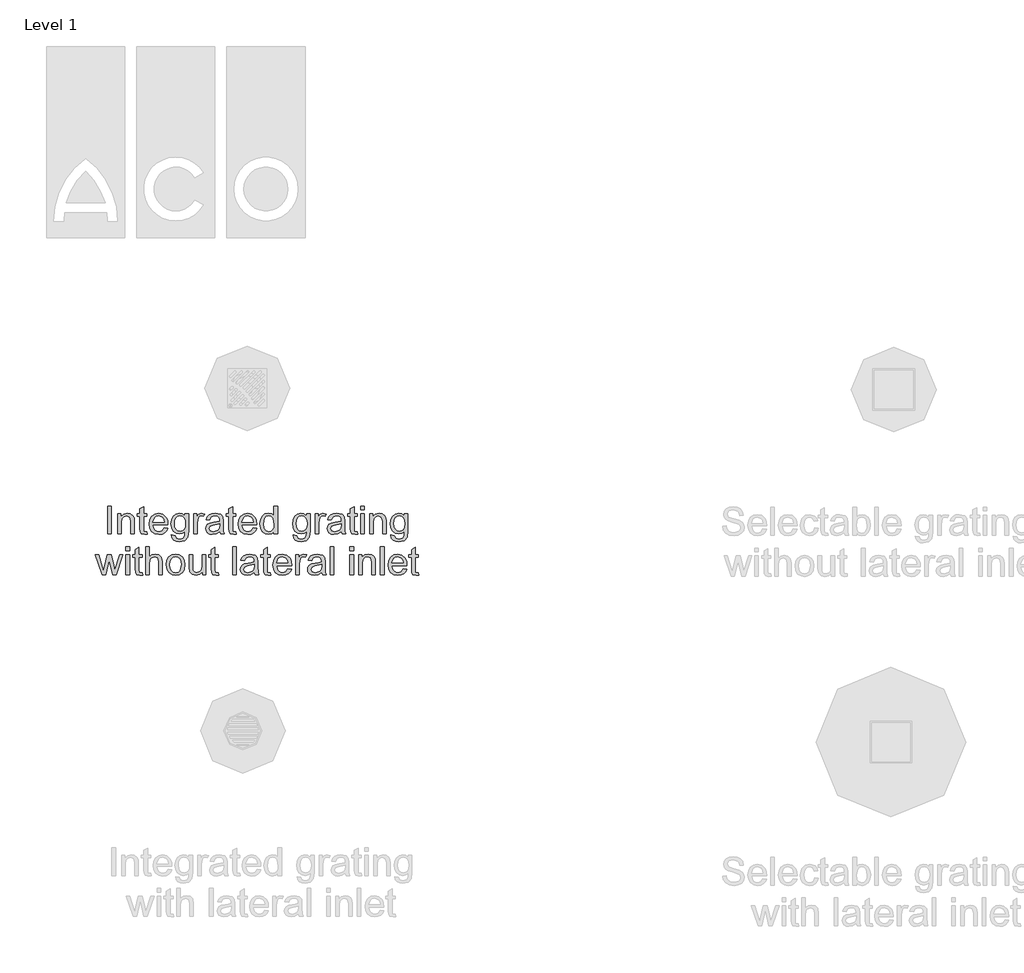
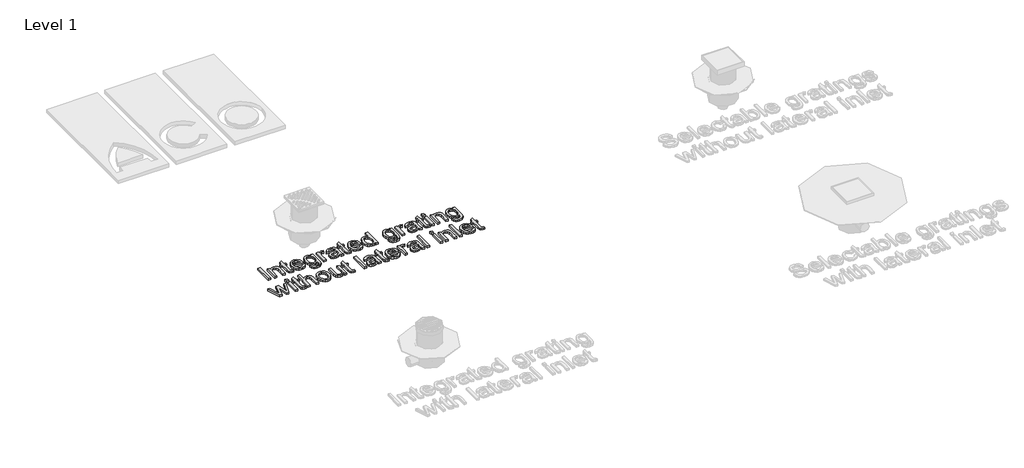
# One storey, part 2 of 4: 1 proxy.
"""IFC4 building model written with IfcOpenShell, lengths in millimetres."""

import ifcopenshell
import ifcopenshell.guid

model = None  # the IFC model being written
_history = None  # IfcOwnerHistory: only IFC2X3 demands one
_inside = {}  # id of a spatial element -> (the spatial element, [elements in it])
_under = {}  # id of a project, library or spatial element -> (it, [spatial elements below it])
_declared = {}  # id of a project -> (the project, [libraries it declares])
_typed = {}  # id of a type object -> (the type object, [elements of that type])
_made_of = {}  # id of a material, layer set ... -> (it, [elements and type objects made of it])


def new_model(schema):
    """Start an empty IFC model of exactly this schema.

    Asked for "IFC4X3", IfcOpenShell would pick the latest addendum, in which some entities
    have other attributes; the version numbers below select the first issue.
    IFC2X3 requires an IfcOwnerHistory on every rooted entity: one is made here for all.
    """
    global model, _history
    if schema == "IFC4X3":
        model = ifcopenshell.file(schema_version=(4, 3, 0, 0))
    else:
        model = ifcopenshell.file(schema=schema)
    _inside.clear()
    _under.clear()
    _declared.clear()
    _typed.clear()
    _made_of.clear()
    _history = None
    if model.schema == "IFC2X3":
        org = make("IfcOrganization", Name="unknown")
        user = make(
            "IfcPersonAndOrganization",
            ThePerson=make("IfcPerson", FamilyName="unknown"),
            TheOrganization=org,
        )
        app = make(
            "IfcApplication",
            ApplicationDeveloper=org,
            Version="unknown",
            ApplicationFullName="unknown",
            ApplicationIdentifier="unknown",
        )
        _history = make(
            "IfcOwnerHistory",
            OwningUser=user,
            OwningApplication=app,
            ChangeAction="ADDED",
            CreationDate=0,
        )
    return model


def make(cls, **values):
    """One entity of the class cls with the attributes given. An attribute that is None is left unset."""
    return model.create_entity(
        cls, **{name: value for name, value in values.items() if value is not None}
    )


def rooted(cls, **values):
    """An entity with a GlobalId (a new one), such as an element, a storey or a relation."""
    return make(cls, GlobalId=ifcopenshell.guid.new(), OwnerHistory=_history, **values)


def si_unit(unit_type, name, prefix=None):
    """IfcSIUnit, for example si_unit("LENGTHUNIT", "METRE", prefix="MILLI")."""
    return make("IfcSIUnit", UnitType=unit_type, Prefix=prefix, Name=name)


def assignment(units):
    """IfcUnitAssignment: the units of a project."""
    return None if units is None else make("IfcUnitAssignment", Units=units)


def point(xyz):
    """IfcCartesianPoint."""
    return None if xyz is None else make("IfcCartesianPoint", Coordinates=xyz)


def direction(xyz):
    """IfcDirection."""
    return None if xyz is None else make("IfcDirection", DirectionRatios=xyz)


def frame(location, z_axis=None, x_axis=None):
    """IfcAxis2Placement3D, a coordinate frame: its origin and axes. An axis left out is left unset."""
    return make(
        "IfcAxis2Placement3D",
        Location=point(location),
        Axis=direction(z_axis),
        RefDirection=direction(x_axis),
    )


def origin():
    """The frame at (0, 0, 0) with its axes left unset."""
    return frame((0.0, 0.0, 0.0))


def origin_with_axes():
    """The frame at (0, 0, 0) with the z axis (0, 0, 1) and the x axis (1, 0, 0) written out."""
    return frame((0.0, 0.0, 0.0), z_axis=(0.0, 0.0, 1.0), x_axis=(1.0, 0.0, 0.0))


def place(relative_to, where):
    """IfcLocalPlacement: puts the frame where relative to a parent placement (None: the world)."""
    return make(
        "IfcLocalPlacement", PlacementRelTo=relative_to, RelativePlacement=where
    )


def context(
    kind, dimensions, precision=None, world=None, true_north=None, identifier=None
):
    """IfcGeometricRepresentationContext, for example the 3D "Model" context."""
    return make(
        "IfcGeometricRepresentationContext",
        ContextIdentifier=identifier,
        ContextType=kind,
        CoordinateSpaceDimension=dimensions,
        Precision=precision,
        WorldCoordinateSystem=world,
        TrueNorth=true_north,
    )


def project(units=None, contexts=None):
    """IfcProject with its units and contexts."""
    return rooted(
        "IfcProject",
        Name="project",
        RepresentationContexts=contexts,
        UnitsInContext=assignment(units),
    )


def spatial(cls, under=None, at=None, **own):
    """A site, building, storey or space (cls), placed at a placement, below another one or the project."""
    s = rooted(cls, ObjectPlacement=at, **own)
    if under is not None:
        _under.setdefault(under.id(), (under, []))[1].append(s)
    return s


def polyline(points):
    """IfcPolyline through the points."""
    return make("IfcPolyline", Points=[point(p) for p in points])


def outline(outer, holes=None, kind="AREA"):
    """IfcArbitraryClosedProfileDef: a profile drawn as a closed curve; with holes, ...WithVoids."""
    if holes is None:
        return make("IfcArbitraryClosedProfileDef", ProfileType=kind, OuterCurve=outer)
    return make(
        "IfcArbitraryProfileDefWithVoids",
        ProfileType=kind,
        OuterCurve=outer,
        InnerCurves=holes,
    )


def extrude(swept, where, along, depth):
    """IfcExtrudedAreaSolid: the profile swept, set in the frame where, extruded along a direction by depth."""
    return make(
        "IfcExtrudedAreaSolid",
        SweptArea=swept,
        Position=where,
        ExtrudedDirection=direction(along),
        Depth=depth,
    )


def shape(context_of_items, identifier, shape_type, items):
    """IfcShapeRepresentation: the items that make up one representation, for example the "Body"."""
    return make(
        "IfcShapeRepresentation",
        ContextOfItems=context_of_items,
        RepresentationIdentifier=identifier,
        RepresentationType=shape_type,
        Items=items,
    )


def made_of(thing, what):
    """Note that an element or type object is made of a material, layer set ...; save() writes the relation."""
    if what is not None:
        _made_of.setdefault(what.id(), (what, []))[1].append(thing)
    return thing


def element(
    cls,
    number,
    at=None,
    inside=None,
    cuts=None,
    type_object=None,
    material=None,
    context=None,
    identifier="Body",
    shape_type=None,
    held_by="IfcProductDefinitionShape",
    body=None,
    shapes=None,
    **own,
):
    """One element of the class cls, such as IfcWall. Its Tag is "e" and its number.

    at: its placement. inside: the storey or other place that contains it. cuts: it is an
    opening in that element (IfcRelVoidsElement). A single representation is given by context,
    identifier, shape_type and body (its items); several are given by shapes. held_by: the class
    of the entity that holds the representations. save() writes the other relations.
    """
    e = rooted(cls, Tag="e%d" % number, ObjectPlacement=at, **own)
    if body is not None:
        shapes = [shape(context, identifier, shape_type, body)]
    if shapes is not None:
        e.Representation = make(held_by, Representations=shapes)
    if inside is not None:
        _inside.setdefault(inside.id(), (inside, []))[1].append(e)
    if cuts is not None:
        rooted(
            "IfcRelVoidsElement", RelatingBuildingElement=cuts, RelatedOpeningElement=e
        )
    if type_object is not None:
        _typed.setdefault(type_object.id(), (type_object, []))[1].append(e)
    return made_of(e, material)


def aggregate(whole, parts):
    """IfcRelAggregates: a whole, such as a stair, and the parts it consists of."""
    return rooted("IfcRelAggregates", RelatingObject=whole, RelatedObjects=parts)


def save(model, path):
    """Write the relations noted so far, then the file.

    IfcRelAggregates (storeys below a building ...), IfcRelContainedInSpatialStructure (elements
    in a storey), IfcRelDefinesByType, IfcRelAssociatesMaterial and IfcRelDeclares: one each for
    every whole, place, type object, material and project.
    """
    for whole, parts in _under.values():
        aggregate(whole, parts)
    for where, things in _inside.values():
        rooted(
            "IfcRelContainedInSpatialStructure",
            RelatedElements=things,
            RelatingStructure=where,
        )
    for kind, things in _typed.values():
        rooted("IfcRelDefinesByType", RelatedObjects=things, RelatingType=kind)
    for what, things in _made_of.values():
        rooted("IfcRelAssociatesMaterial", RelatedObjects=things, RelatingMaterial=what)
    for by, libraries in _declared.values():
        rooted("IfcRelDeclares", RelatingContext=by, RelatedDefinitions=libraries)
    model.write(path)


model = new_model("IFC4")

# Units and contexts
model_context = context("Model", 3, world=origin())
ifc_project = project(units=[si_unit("LENGTHUNIT", "METRE", prefix="MILLI")], contexts=[model_context])

# Site, building, storey
site = spatial("IfcSite", under=ifc_project)
building = spatial("IfcBuilding", under=site)
storey = spatial("IfcBuildingStorey", under=building, Name="Level 1", Elevation=0.0)

# Proxy
placement = place(None, origin())
element("IfcBuildingElementProxy", 1, Name="100mm ACO", ObjectType="100mm ACO", at=placement, inside=storey, context=model_context, shape_type="SweptSolid", body=[
    extrude(outline(polyline([(1747.7949859, -889.3729717), (1734.832023, -889.3729717), (1734.832023, -789.3729717), (1747.7949859, -789.3729717), (1747.7949859, -889.3729717)])), origin_with_axes(), (0.0, 0.0, 1.0), 10.0),
    extrude(outline(polyline([(1829.2764674, -889.3729717), (1816.3135045, -889.3729717), (1816.3135045, -844.4076939), (1812.4506572, -828.8116291), (1801.7012359, -824.5581568), (1791.6751943, -827.2780643), (1784.9622313, -834.9458883), (1782.9801711, -848.950518), (1782.9801711, -889.3729717), (1770.0172082, -889.3729717), (1770.0172082, -817.1507494), (1781.1283193, -817.1507494), (1781.1283193, -827.1912587), (1791.0241526, -818.2647541), (1804.2764674, -815.2988976), (1815.6479952, -817.3532957), (1824.4442915, -823.5020226), (1828.4518146, -832.2404485), (1829.2764674, -844.7838513), (1829.2764674, -889.3729717)])), origin_with_axes(), (0.0, 0.0, 1.0), 10.0),
    extrude(outline(polyline([(1875.5727637, -890.3857031), (1866.4871156, -891.2248235), (1854.8985739, -888.3457726), (1850.457023, -881.0396383), (1849.6468378, -868.7132494), (1849.6468378, -826.4100087), (1840.3875785, -826.4100087), (1840.3875785, -817.1507494), (1849.6468378, -817.1507494), (1849.6468378, -798.805842), (1862.6098008, -791.2248235), (1862.6098008, -817.1507494), (1873.7209119, -817.1507494), (1873.7209119, -826.4100087), (1862.6098008, -826.4100087), (1862.6098008, -871.3174161), (1863.6514674, -879.5350087), (1868.9466063, -881.9655643), (1873.9813285, -881.9655643), (1875.5727637, -890.3857031)])), origin_with_axes(), (0.0, 0.0, 1.0), 10.0),
    extrude(outline(polyline([(1949.6468378, -856.0396383), (1895.9431341, -856.0396383), (1898.0156167, -867.165217), (1902.728435, -875.3104717), (1909.510119, -880.3017911), (1917.7891989, -881.9655643), (1929.4645461, -878.2763281), (1936.6838748, -867.1507494), (1949.6468378, -868.6553791), (1945.270391, -878.2763281), (1938.3331804, -885.3799161), (1929.0883887, -889.7635967), (1917.7891989, -891.2248235), (1903.2022487, -888.7183131), (1892.1960276, -881.1987818), (1885.2841352, -869.3389728), (1882.9801711, -853.8116291), (1885.2009466, -838.2734346), (1891.863273, -825.9759809), (1902.5620577, -817.9681684), (1916.8922082, -815.2988976), (1932.1121156, -818.7566522), (1944.5397776, -830.5332726), (1948.3700727, -841.0692969), (1949.6468378, -856.0396383)]), holes=[polyline([(1936.6838748, -846.7803791), (1934.6005415, -836.6241291), (1929.8551711, -829.7664902), (1916.5739211, -824.5581568), (1908.7180183, -826.1061893), (1902.3956804, -830.7502865), (1895.9431341, -846.7803791), (1936.6838748, -846.7803791)])]), origin_with_axes(), (0.0, 0.0, 1.0), 10.0),
    extrude(outline(polyline([(2023.7209119, -878.7248235), (2020.6682498, -901.3666059), (2009.8030878, -912.9985504), (1991.1398933, -917.1507494), (1979.9238922, -915.7437761), (1970.7550554, -911.5228559), (1964.6461144, -904.097364), (1962.6098008, -893.0766754), (1975.5727637, -895.1310735), (1980.144523, -904.6941522), (1991.3424396, -907.8914902), (2004.6526248, -904.2022541), (2009.8175554, -895.2178791), (2010.7579489, -880.6056106), (2001.983354, -887.1811314), (1991.1688285, -889.3729717), (1978.7773355, -886.7615712), (1969.0912822, -878.9273698), (1962.8412822, -867.1145805), (1960.7579489, -852.5674161), (1962.7400091, -837.9262124), (1968.6861896, -825.9470457), (1978.1335276, -817.9609346), (1990.61906, -815.2988976), (2001.6940021, -817.6788166), (2010.4975322, -824.8185735), (2010.7579489, -817.1507494), (2023.7209119, -817.1507494), (2023.7209119, -878.7248235)]), holes=[polyline([(1993.1074859, -880.1137124), (2000.3195808, -878.5078096), (2006.6780878, -873.6901013), (2011.1268725, -865.0963513), (2012.6098008, -852.1623235), (2011.1955936, -840.3748525), (2006.9529721, -831.69068), (2000.6270172, -826.3412876), (1992.96281, -824.5581568), (1985.2407325, -826.3846904), (1979.0883887, -831.8642911), (1975.0627811, -840.5195284), (1973.7209119, -851.8729717), (1975.1278852, -864.5899856), (1979.3488054, -873.3428791), (1985.6024223, -878.4210041), (1993.1074859, -880.1137124)])]), origin_with_axes(), (0.0, 0.0, 1.0), 10.0),
    extrude(outline(polyline([(2081.1283193, -818.1345457), (2077.0773933, -826.4100087), (2068.5704489, -824.5581568), (2062.7761781, -826.185761), (2058.58781, -831.0685735), (2055.2023933, -849.2977402), (2055.2023933, -889.3729717), (2042.2394304, -889.3729717), (2042.2394304, -817.1507494), (2053.3505415, -817.1507494), (2053.3505415, -827.856768), (2060.2805183, -818.4383652), (2068.7151248, -815.2988976), (2081.1283193, -818.1345457)])), origin_with_axes(), (0.0, 0.0, 1.0), 10.0),
    extrude(outline(polyline([(2151.4986896, -889.3729717), (2138.5357267, -889.3729717), (2134.832023, -880.6345457), (2122.3392568, -888.5772541), (2108.8771619, -891.2248235), (2098.8909061, -889.7780643), (2091.2701017, -885.4377865), (2086.4415427, -878.7248235), (2084.832023, -870.1600087), (2086.4089906, -861.8519937), (2091.1398933, -855.1571152), (2099.7698123, -850.263452), (2113.0438285, -847.3590828), (2124.3864211, -845.6229717), (2134.832023, -843.0766754), (2134.4992683, -835.0471615), (2132.5606109, -830.1715828), (2127.3956804, -826.1061893), (2117.8181341, -824.5581568), (2105.7376943, -827.6976244), (2099.6468378, -839.3729717), (2086.6838748, -837.7815365), (2090.2392857, -827.9725087), (2096.9124628, -820.9412587), (2106.6961723, -816.7094879), (2119.5831804, -815.2988976), (2138.8395461, -819.1617448), (2146.3916295, -828.4788744), (2147.7949859, -842.5269068), (2147.7949859, -859.0488976), (2148.3447545, -879.3035272), (2151.4986896, -889.3729717)]), holes=[polyline([(2134.832023, -856.9655643), (2134.832023, -852.3359346), (2111.5536665, -857.6600087), (2101.2346561, -861.7181684), (2097.7949859, -869.9574624), (2101.4986896, -878.5801476), (2112.175773, -881.9655643), (2127.9888517, -876.294268), (2133.1212302, -868.6264439), (2134.832023, -856.9655643)])]), origin_with_axes(), (0.0, 0.0, 1.0), 10.0),
    extrude(outline(polyline([(2194.0912822, -890.3857031), (2185.0056341, -891.2248235), (2173.4170924, -888.3457726), (2168.9755415, -881.0396383), (2168.1653563, -868.7132494), (2168.1653563, -826.4100087), (2158.9060971, -826.4100087), (2158.9060971, -817.1507494), (2168.1653563, -817.1507494), (2168.1653563, -798.805842), (2181.1283193, -791.2248235), (2181.1283193, -817.1507494), (2192.2394304, -817.1507494), (2192.2394304, -826.4100087), (2181.1283193, -826.4100087), (2181.1283193, -871.3174161), (2182.1699859, -879.5350087), (2187.4651248, -881.9655643), (2192.4998471, -881.9655643), (2194.0912822, -890.3857031)])), origin_with_axes(), (0.0, 0.0, 1.0), 10.0),
    extrude(outline(polyline([(2268.1653563, -856.0396383), (2214.4616526, -856.0396383), (2216.5341352, -867.165217), (2221.2469535, -875.3104717), (2228.0286376, -880.3017911), (2236.3077174, -881.9655643), (2247.9830646, -878.2763281), (2255.2023933, -867.1507494), (2268.1653563, -868.6553791), (2263.7889096, -878.2763281), (2256.8516989, -885.3799161), (2247.6069072, -889.7635967), (2236.3077174, -891.2248235), (2221.7207672, -888.7183131), (2210.7145461, -881.1987818), (2203.8026538, -869.3389728), (2201.4986896, -853.8116291), (2203.7194651, -838.2734346), (2210.3817915, -825.9759809), (2221.0805762, -817.9681684), (2235.4107267, -815.2988976), (2250.6306341, -818.7566522), (2263.0582961, -830.5332726), (2266.8885913, -841.0692969), (2268.1653563, -856.0396383)]), holes=[polyline([(2255.2023933, -846.7803791), (2253.11906, -836.6241291), (2248.3736896, -829.7664902), (2235.0924396, -824.5581568), (2227.2365369, -826.1061893), (2220.9141989, -830.7502865), (2214.4616526, -846.7803791), (2255.2023933, -846.7803791)])]), origin_with_axes(), (0.0, 0.0, 1.0), 10.0),
    extrude(outline(polyline([(2342.2394304, -889.3729717), (2329.2764674, -889.3729717), (2329.2764674, -881.2132494), (2320.9214327, -888.72193), (2309.5426711, -891.2248235), (2297.6756283, -888.5844879), (2287.9425554, -880.6634809), (2281.4429894, -868.5324045), (2279.2764674, -853.2618606), (2281.352567, -837.5211198), (2287.5808656, -825.4840828), (2297.2162822, -817.8451939), (2309.5137359, -815.2988976), (2320.7984582, -817.5847772), (2329.0160508, -824.4424161), (2329.2764674, -789.3729717), (2342.2394304, -789.3729717), (2342.2394304, -889.3729717)]), holes=[polyline([(2311.0473008, -881.9655643), (2318.1002521, -880.2583883), (2323.9813285, -875.1368606), (2327.9526827, -866.5431106), (2329.2764674, -854.419268), (2324.4298239, -832.6600087), (2318.530663, -826.5836198), (2310.5264674, -824.5581568), (2302.5801422, -826.540217), (2296.8545924, -832.4863976), (2292.2394304, -853.2907957), (2294.7278563, -869.0460041), (2301.6723008, -878.7248235), (2311.0473008, -881.9655643)])]), origin_with_axes(), (0.0, 0.0, 1.0), 10.0),
    extrude(outline(polyline([(2458.9060971, -878.7248235), (2455.853435, -901.3666059), (2444.988273, -912.9985504), (2426.3250785, -917.1507494), (2415.1090774, -915.7437761), (2405.9402406, -911.5228559), (2399.8312996, -904.097364), (2397.7949859, -893.0766754), (2410.7579489, -895.1310735), (2415.3297082, -904.6941522), (2426.5276248, -907.8914902), (2439.83781, -904.2022541), (2445.0027406, -895.2178791), (2445.9431341, -880.6056106), (2437.1685392, -887.1811314), (2426.3540137, -889.3729717), (2413.9625207, -886.7615712), (2404.2764674, -878.9273698), (2398.0264674, -867.1145805), (2395.9431341, -852.5674161), (2397.9251943, -837.9262124), (2403.8713748, -825.9470457), (2413.3187128, -817.9609346), (2425.8042452, -815.2988976), (2436.8791873, -817.6788166), (2445.6827174, -824.8185735), (2445.9431341, -817.1507494), (2458.9060971, -817.1507494), (2458.9060971, -878.7248235)]), holes=[polyline([(2428.2926711, -880.1137124), (2435.504766, -878.5078096), (2441.863273, -873.6901013), (2446.3120577, -865.0963513), (2447.7949859, -852.1623235), (2446.3807788, -840.3748525), (2442.1381572, -831.69068), (2435.8122024, -826.3412876), (2428.1479952, -824.5581568), (2420.4259177, -826.3846904), (2414.2735739, -831.8642911), (2410.2479663, -840.5195284), (2408.9060971, -851.8729717), (2410.3130704, -864.5899856), (2414.5339906, -873.3428791), (2420.7876075, -878.4210041), (2428.2926711, -880.1137124)])]), origin_with_axes(), (0.0, 0.0, 1.0), 10.0),
    extrude(outline(polyline([(2516.3135045, -818.1345457), (2512.2625785, -826.4100087), (2503.7556341, -824.5581568), (2497.9613633, -826.185761), (2493.7729952, -831.0685735), (2490.3875785, -849.2977402), (2490.3875785, -889.3729717), (2477.4246156, -889.3729717), (2477.4246156, -817.1507494), (2488.5357267, -817.1507494), (2488.5357267, -827.856768), (2495.4657035, -818.4383652), (2503.90031, -815.2988976), (2516.3135045, -818.1345457)])), origin_with_axes(), (0.0, 0.0, 1.0), 10.0),
    extrude(outline(polyline([(2586.6838748, -889.3729717), (2573.7209119, -889.3729717), (2570.0172082, -880.6345457), (2557.524442, -888.5772541), (2544.0623471, -891.2248235), (2534.0760913, -889.7780643), (2526.4552869, -885.4377865), (2521.6267278, -878.7248235), (2520.0172082, -870.1600087), (2521.5941758, -861.8519937), (2526.3250785, -855.1571152), (2534.9549975, -850.263452), (2548.2290137, -847.3590828), (2559.5716063, -845.6229717), (2570.0172082, -843.0766754), (2569.6844535, -835.0471615), (2567.7457961, -830.1715828), (2562.5808656, -826.1061893), (2553.0033193, -824.5581568), (2540.9228795, -827.6976244), (2534.832023, -839.3729717), (2521.86906, -837.7815365), (2525.4244709, -827.9725087), (2532.097648, -820.9412587), (2541.8813575, -816.7094879), (2554.7683656, -815.2988976), (2574.0247313, -819.1617448), (2581.5768146, -828.4788744), (2582.9801711, -842.5269068), (2582.9801711, -859.0488976), (2583.5299396, -879.3035272), (2586.6838748, -889.3729717)]), holes=[polyline([(2570.0172082, -856.9655643), (2570.0172082, -852.3359346), (2546.7388517, -857.6600087), (2536.4198413, -861.7181684), (2532.9801711, -869.9574624), (2536.6838748, -878.5801476), (2547.3609582, -881.9655643), (2563.1740369, -876.294268), (2568.3064153, -868.6264439), (2570.0172082, -856.9655643)])]), origin_with_axes(), (0.0, 0.0, 1.0), 10.0),
    extrude(outline(polyline([(2629.2764674, -890.3857031), (2620.1908193, -891.2248235), (2608.6022776, -888.3457726), (2604.1607267, -881.0396383), (2603.3505415, -868.7132494), (2603.3505415, -826.4100087), (2594.0912822, -826.4100087), (2594.0912822, -817.1507494), (2603.3505415, -817.1507494), (2603.3505415, -798.805842), (2616.3135045, -791.2248235), (2616.3135045, -817.1507494), (2627.4246156, -817.1507494), (2627.4246156, -826.4100087), (2616.3135045, -826.4100087), (2616.3135045, -871.3174161), (2617.3551711, -879.5350087), (2622.65031, -881.9655643), (2627.6850322, -881.9655643), (2629.2764674, -890.3857031)])), origin_with_axes(), (0.0, 0.0, 1.0), 10.0),
    extrude(outline(polyline([(2653.3505415, -802.3359346), (2640.3875785, -802.3359346), (2640.3875785, -789.3729717), (2653.3505415, -789.3729717), (2653.3505415, -802.3359346)])), origin_with_axes(), (0.0, 0.0, 1.0), 10.0),
    extrude(outline(polyline([(2653.3505415, -889.3729717), (2640.3875785, -889.3729717), (2640.3875785, -817.1507494), (2653.3505415, -817.1507494), (2653.3505415, -889.3729717)])), origin_with_axes(), (0.0, 0.0, 1.0), 10.0),
    extrude(outline(polyline([(2731.1283193, -889.3729717), (2718.1653563, -889.3729717), (2718.1653563, -844.4076939), (2714.3025091, -828.8116291), (2703.5530878, -824.5581568), (2693.5270461, -827.2780643), (2686.8140832, -834.9458883), (2684.832023, -848.950518), (2684.832023, -889.3729717), (2671.86906, -889.3729717), (2671.86906, -817.1507494), (2682.9801711, -817.1507494), (2682.9801711, -827.1912587), (2692.8760045, -818.2647541), (2706.1283193, -815.2988976), (2717.4998471, -817.3532957), (2726.2961433, -823.5020226), (2730.3036665, -832.2404485), (2731.1283193, -844.7838513), (2731.1283193, -889.3729717)])), origin_with_axes(), (0.0, 0.0, 1.0), 10.0),
    extrude(outline(polyline([(2808.9060971, -878.7248235), (2805.853435, -901.3666059), (2794.988273, -912.9985504), (2776.3250785, -917.1507494), (2765.1090774, -915.7437761), (2755.9402406, -911.5228559), (2749.8312996, -904.097364), (2747.7949859, -893.0766754), (2760.7579489, -895.1310735), (2765.3297082, -904.6941522), (2776.5276248, -907.8914902), (2789.83781, -904.2022541), (2795.0027406, -895.2178791), (2795.9431341, -880.6056106), (2787.1685392, -887.1811314), (2776.3540137, -889.3729717), (2763.9625207, -886.7615712), (2754.2764674, -878.9273698), (2748.0264674, -867.1145805), (2745.9431341, -852.5674161), (2747.9251943, -837.9262124), (2753.8713748, -825.9470457), (2763.3187128, -817.9609346), (2775.8042452, -815.2988976), (2786.8791873, -817.6788166), (2795.6827174, -824.8185735), (2795.9431341, -817.1507494), (2808.9060971, -817.1507494), (2808.9060971, -878.7248235)]), holes=[polyline([(2778.2926711, -880.1137124), (2785.504766, -878.5078096), (2791.863273, -873.6901013), (2796.3120577, -865.0963513), (2797.7949859, -852.1623235), (2796.3807788, -840.3748525), (2792.1381572, -831.69068), (2785.8122024, -826.3412876), (2778.1479952, -824.5581568), (2770.4259177, -826.3846904), (2764.2735739, -831.8642911), (2760.2479663, -840.5195284), (2758.9060971, -851.8729717), (2760.3130704, -864.5899856), (2764.5339906, -873.3428791), (2770.7876075, -878.4210041), (2778.2926711, -880.1137124)])]), origin_with_axes(), (0.0, 0.0, 1.0), 10.0),
    extrude(outline(polyline([(1788.9986896, -963.4470457), (1764.7799396, -1035.669268), (1752.5114211, -1035.669268), (1742.0079489, -992.2664902), (1740.7058656, -986.4071152), (1739.4616526, -979.9979717), (1726.7012359, -1035.669268), (1714.4616526, -1035.669268), (1689.9246156, -963.4470457), (1701.4697545, -963.4470457), (1719.0912822, -1020.680842), (1721.2035508, -1010.9296846), (1732.2278563, -963.4470457), (1746.8111896, -963.4470457), (1755.5496156, -1001.3232031), (1759.6005415, -1019.118342), (1777.4535508, -963.4470457), (1788.9986896, -963.4470457)])), origin_with_axes(), (0.0, 0.0, 1.0), 10.0),
    extrude(outline(polyline([(1812.6098008, -948.6322309), (1799.6468378, -948.6322309), (1799.6468378, -935.669268), (1812.6098008, -935.669268), (1812.6098008, -948.6322309)])), origin_with_axes(), (0.0, 0.0, 1.0), 10.0),
    extrude(outline(polyline([(1812.6098008, -1035.669268), (1799.6468378, -1035.669268), (1799.6468378, -963.4470457), (1812.6098008, -963.4470457), (1812.6098008, -1035.669268)])), origin_with_axes(), (0.0, 0.0, 1.0), 10.0),
    extrude(outline(polyline([(1858.9060971, -1036.6819994), (1849.8204489, -1037.5211198), (1838.2319072, -1034.6420689), (1833.7903563, -1027.3359346), (1832.9801711, -1015.0095457), (1832.9801711, -972.706305), (1823.7209119, -972.706305), (1823.7209119, -963.4470457), (1832.9801711, -963.4470457), (1832.9801711, -945.1021383), (1845.9431341, -937.5211198), (1845.9431341, -963.4470457), (1857.0542452, -963.4470457), (1857.0542452, -972.706305), (1845.9431341, -972.706305), (1845.9431341, -1017.6137124), (1846.9848008, -1025.831305), (1852.2799396, -1028.2618606), (1857.3146619, -1028.2618606), (1858.9060971, -1036.6819994)])), origin_with_axes(), (0.0, 0.0, 1.0), 10.0),
    extrude(outline(polyline([(1929.2764674, -1035.669268), (1916.3135045, -1035.669268), (1916.3135045, -988.9678791), (1912.6242683, -975.3828096), (1901.6144304, -970.8544531), (1888.6804026, -976.1929948), (1884.405229, -983.6257205), (1882.9801711, -995.2468143), (1882.9801711, -1035.669268), (1870.0172082, -1035.669268), (1870.0172082, -935.669268), (1882.9801711, -935.669268), (1882.9801711, -971.4910272), (1892.680692, -964.0691522), (1904.5368841, -961.5951939), (1917.8181341, -964.4597772), (1926.7157035, -973.2705411), (1929.2764674, -989.7780643), (1929.2764674, -1035.669268)])), origin_with_axes(), (0.0, 0.0, 1.0), 10.0),
    extrude(outline(polyline([(1977.3956804, -961.5951939), (1990.5720403, -963.9895805), (2001.2816758, -971.1727402), (2008.3888806, -982.7685156), (2010.7579489, -998.4007494), (2008.1935681, -1016.6733189), (2000.5004258, -1028.6669531), (1989.5954778, -1035.3075781), (1977.3956804, -1037.5211198), (1964.8052579, -1035.2460909), (1954.0015832, -1028.4210041), (1946.5688575, -1016.6552344), (1944.0912822, -999.5581568), (1946.4856688, -982.8408536), (1953.6688285, -970.9991291), (1964.3893146, -963.9461777), (1977.3956804, -961.5951939)]), holes=[polyline([(1977.3956804, -1028.2618606), (1986.2028274, -1026.2544821), (1992.6011202, -1020.2323467), (1997.7949859, -999.0951939), (1996.3265253, -986.8122078), (1991.9211433, -977.9725087), (1985.3528563, -972.633967), (1977.3956804, -970.8544531), (1969.2829778, -972.6592853), (1962.7689443, -978.0737818), (1958.48292, -987.0617737), (1957.0542452, -999.587092), (1958.5082383, -1012.0690075), (1962.8702174, -1021.0425318), (1969.4095693, -1026.4570284), (1977.3956804, -1028.2618606)])]), origin_with_axes(), (0.0, 0.0, 1.0), 10.0),
    extrude(outline(polyline([(2084.832023, -1035.669268), (2073.7209119, -1035.669268), (2073.7209119, -1025.1657957), (2063.4778563, -1034.4322888), (2050.5148933, -1037.5211198), (2036.394523, -1034.0054948), (2027.7429026, -1024.3266754), (2025.5727637, -1008.325518), (2025.5727637, -963.4470457), (2038.5357267, -963.4470457), (2038.5357267, -1004.419268), (2039.4327174, -1018.5107031), (2044.1202174, -1025.513018), (2053.1479952, -1028.2618606), (2065.8939443, -1023.3428791), (2070.3752811, -1015.7907957), (2071.86906, -1002.9725087), (2071.86906, -963.4470457), (2084.832023, -963.4470457), (2084.832023, -1035.669268)])), origin_with_axes(), (0.0, 0.0, 1.0), 10.0),
    extrude(outline(polyline([(2131.1283193, -1036.6819994), (2122.0426711, -1037.5211198), (2110.4541295, -1034.6420689), (2106.0125785, -1027.3359346), (2105.2023933, -1015.0095457), (2105.2023933, -972.706305), (2095.9431341, -972.706305), (2095.9431341, -963.4470457), (2105.2023933, -963.4470457), (2105.2023933, -945.1021383), (2118.1653563, -937.5211198), (2118.1653563, -963.4470457), (2129.2764674, -963.4470457), (2129.2764674, -972.706305), (2118.1653563, -972.706305), (2118.1653563, -1017.6137124), (2119.207023, -1025.831305), (2124.5021619, -1028.2618606), (2129.5368841, -1028.2618606), (2131.1283193, -1036.6819994)])), origin_with_axes(), (0.0, 0.0, 1.0), 10.0),
    extrude(outline(polyline([(2194.0912822, -1035.669268), (2181.1283193, -1035.669268), (2181.1283193, -935.669268), (2194.0912822, -935.669268), (2194.0912822, -1035.669268)])), origin_with_axes(), (0.0, 0.0, 1.0), 10.0),
    extrude(outline(polyline([(2275.5727637, -1035.669268), (2262.6098008, -1035.669268), (2258.9060971, -1026.930842), (2246.4133308, -1034.8735504), (2232.9512359, -1037.5211198), (2222.9649802, -1036.0743606), (2215.3441758, -1031.7340828), (2210.5156167, -1025.0211198), (2208.9060971, -1016.456305), (2210.4830646, -1008.14829), (2215.2139674, -1001.4534115), (2223.8438864, -996.5597483), (2237.1179026, -993.6553791), (2248.4604952, -991.919268), (2258.9060971, -989.3729717), (2258.5733424, -981.3434578), (2256.634685, -976.4678791), (2251.4697545, -972.4024856), (2241.8922082, -970.8544531), (2229.8117683, -973.9939207), (2223.7209119, -985.669268), (2210.7579489, -984.0778328), (2214.3133598, -974.268805), (2220.9865369, -967.237555), (2230.7702464, -963.0057842), (2243.6572545, -961.5951939), (2262.9136202, -965.4580411), (2270.4657035, -974.7751707), (2271.86906, -988.8232031), (2271.86906, -1005.3451939), (2272.4188285, -1025.5998235), (2275.5727637, -1035.669268)]), holes=[polyline([(2258.9060971, -1003.2618606), (2258.9060971, -998.6322309), (2235.6277406, -1003.956305), (2225.3087302, -1008.0144647), (2221.86906, -1016.2537587), (2225.5727637, -1024.8764439), (2236.2498471, -1028.2618606), (2252.0629258, -1022.5905643), (2257.1953042, -1014.9227402), (2258.9060971, -1003.2618606)])]), origin_with_axes(), (0.0, 0.0, 1.0), 10.0),
    extrude(outline(polyline([(2318.1653563, -1036.6819994), (2309.0797082, -1037.5211198), (2297.4911665, -1034.6420689), (2293.0496156, -1027.3359346), (2292.2394304, -1015.0095457), (2292.2394304, -972.706305), (2282.9801711, -972.706305), (2282.9801711, -963.4470457), (2292.2394304, -963.4470457), (2292.2394304, -945.1021383), (2305.2023933, -937.5211198), (2305.2023933, -963.4470457), (2316.3135045, -963.4470457), (2316.3135045, -972.706305), (2305.2023933, -972.706305), (2305.2023933, -1017.6137124), (2306.24406, -1025.831305), (2311.5391989, -1028.2618606), (2316.5739211, -1028.2618606), (2318.1653563, -1036.6819994)])), origin_with_axes(), (0.0, 0.0, 1.0), 10.0),
    extrude(outline(polyline([(2392.2394304, -1002.3359346), (2338.5357267, -1002.3359346), (2340.6082093, -1013.4615133), (2345.3210276, -1021.606768), (2352.1027116, -1026.5980874), (2360.3817915, -1028.2618606), (2372.0571387, -1024.5726244), (2379.2764674, -1013.4470457), (2392.2394304, -1014.9516754), (2387.8629836, -1024.5726244), (2380.925773, -1031.6762124), (2371.6809813, -1036.059893), (2360.3817915, -1037.5211198), (2345.7948413, -1035.0146094), (2334.7886202, -1027.4950781), (2327.8767278, -1015.6352691), (2325.5727637, -1000.1079254), (2327.7935392, -984.5697309), (2334.4558656, -972.2722772), (2345.1546503, -964.2644647), (2359.4848008, -961.5951939), (2374.7047082, -965.0529485), (2387.1323702, -976.8295689), (2390.9626653, -987.3655932), (2392.2394304, -1002.3359346)]), holes=[polyline([(2379.2764674, -993.0766754), (2377.1931341, -982.9204254), (2372.4477637, -976.0627865), (2359.1665137, -970.8544531), (2351.3106109, -972.4024856), (2344.988273, -977.0465828), (2338.5357267, -993.0766754), (2379.2764674, -993.0766754)])]), origin_with_axes(), (0.0, 0.0, 1.0), 10.0),
    extrude(outline(polyline([(2445.9431341, -964.430842), (2441.8922082, -972.706305), (2433.3852637, -970.8544531), (2427.5909929, -972.4820573), (2423.4026248, -977.3648698), (2420.0172082, -995.5940365), (2420.0172082, -1035.669268), (2407.0542452, -1035.669268), (2407.0542452, -963.4470457), (2418.1653563, -963.4470457), (2418.1653563, -974.1530643), (2425.0953332, -964.7346615), (2433.5299396, -961.5951939), (2445.9431341, -964.430842)])), origin_with_axes(), (0.0, 0.0, 1.0), 10.0),
    extrude(outline(polyline([(2516.3135045, -1035.669268), (2503.3505415, -1035.669268), (2499.6468378, -1026.930842), (2487.1540716, -1034.8735504), (2473.6919767, -1037.5211198), (2463.7057209, -1036.0743606), (2456.0849165, -1031.7340828), (2451.2563575, -1025.0211198), (2449.6468378, -1016.456305), (2451.2238054, -1008.14829), (2455.9547082, -1001.4534115), (2464.5846271, -996.5597483), (2477.8586433, -993.6553791), (2489.2012359, -991.919268), (2499.6468378, -989.3729717), (2499.3140832, -981.3434578), (2497.3754258, -976.4678791), (2492.2104952, -972.4024856), (2482.6329489, -970.8544531), (2470.5525091, -973.9939207), (2464.4616526, -985.669268), (2451.4986896, -984.0778328), (2455.0541005, -974.268805), (2461.7272776, -967.237555), (2471.5109871, -963.0057842), (2484.3979952, -961.5951939), (2503.6543609, -965.4580411), (2511.2064443, -974.7751707), (2512.6098008, -988.8232031), (2512.6098008, -1005.3451939), (2513.1595693, -1025.5998235), (2516.3135045, -1035.669268)]), holes=[polyline([(2499.6468378, -1003.2618606), (2499.6468378, -998.6322309), (2476.3684813, -1003.956305), (2466.0494709, -1008.0144647), (2462.6098008, -1016.2537587), (2466.3135045, -1024.8764439), (2476.9905878, -1028.2618606), (2492.8036665, -1022.5905643), (2497.936045, -1014.9227402), (2499.6468378, -1003.2618606)])]), origin_with_axes(), (0.0, 0.0, 1.0), 10.0),
    extrude(outline(polyline([(2544.0912822, -1035.669268), (2531.1283193, -1035.669268), (2531.1283193, -935.669268), (2544.0912822, -935.669268), (2544.0912822, -1035.669268)])), origin_with_axes(), (0.0, 0.0, 1.0), 10.0),
    extrude(outline(polyline([(2614.4616526, -1035.669268), (2601.4986896, -1035.669268), (2601.4986896, -963.4470457), (2614.4616526, -963.4470457), (2614.4616526, -1035.669268)])), origin_with_axes(), (0.0, 0.0, 1.0), 10.0),
    extrude(outline(polyline([(2614.4616526, -948.6322309), (2601.4986896, -948.6322309), (2601.4986896, -935.669268), (2614.4616526, -935.669268), (2614.4616526, -948.6322309)])), origin_with_axes(), (0.0, 0.0, 1.0), 10.0),
    extrude(outline(polyline([(2692.2394304, -1035.669268), (2679.2764674, -1035.669268), (2679.2764674, -990.7039902), (2675.4136202, -975.1079254), (2664.6641989, -970.8544531), (2654.6381572, -973.5743606), (2647.9251943, -981.2421846), (2645.9431341, -995.2468143), (2645.9431341, -1035.669268), (2632.9801711, -1035.669268), (2632.9801711, -963.4470457), (2644.0912822, -963.4470457), (2644.0912822, -973.487555), (2653.9871156, -964.5610504), (2667.2394304, -961.5951939), (2678.6109582, -963.649592), (2687.4072545, -969.7983189), (2691.4147776, -978.5367448), (2692.2394304, -991.0801476), (2692.2394304, -1035.669268)])), origin_with_axes(), (0.0, 0.0, 1.0), 10.0),
    extrude(outline(polyline([(2723.7209119, -1035.669268), (2710.7579489, -1035.669268), (2710.7579489, -935.669268), (2723.7209119, -935.669268), (2723.7209119, -1035.669268)])), origin_with_axes(), (0.0, 0.0, 1.0), 10.0),
    extrude(outline(polyline([(2805.2023933, -1002.3359346), (2751.4986896, -1002.3359346), (2753.5711723, -1013.4615133), (2758.2839906, -1021.606768), (2765.0656746, -1026.5980874), (2773.3447545, -1028.2618606), (2785.0201017, -1024.5726244), (2792.2394304, -1013.4470457), (2805.2023933, -1014.9516754), (2800.8259466, -1024.5726244), (2793.8887359, -1031.6762124), (2784.6439443, -1036.059893), (2773.3447545, -1037.5211198), (2758.7578042, -1035.0146094), (2747.7515832, -1027.4950781), (2740.8396908, -1015.6352691), (2738.5357267, -1000.1079254), (2740.7565021, -984.5697309), (2747.4188285, -972.2722772), (2758.1176133, -964.2644647), (2772.4477637, -961.5951939), (2787.6676711, -965.0529485), (2800.0953332, -976.8295689), (2803.9256283, -987.3655932), (2805.2023933, -1002.3359346)]), holes=[polyline([(2792.2394304, -993.0766754), (2790.1560971, -982.9204254), (2785.4107267, -976.0627865), (2772.1294767, -970.8544531), (2764.2735739, -972.4024856), (2757.9512359, -977.0465828), (2751.4986896, -993.0766754), (2792.2394304, -993.0766754)])]), origin_with_axes(), (0.0, 0.0, 1.0), 10.0),
    extrude(outline(polyline([(2847.7949859, -1036.6819994), (2838.7093378, -1037.5211198), (2827.1207961, -1034.6420689), (2822.6792452, -1027.3359346), (2821.86906, -1015.0095457), (2821.86906, -972.706305), (2812.6098008, -972.706305), (2812.6098008, -963.4470457), (2821.86906, -963.4470457), (2821.86906, -945.1021383), (2834.832023, -937.5211198), (2834.832023, -963.4470457), (2845.9431341, -963.4470457), (2845.9431341, -972.706305), (2834.832023, -972.706305), (2834.832023, -1017.6137124), (2835.8736896, -1025.831305), (2841.1688285, -1028.2618606), (2846.2035508, -1028.2618606), (2847.7949859, -1036.6819994)])), origin_with_axes(), (0.0, 0.0, 1.0), 10.0),
])

save(model, "model.ifc")
